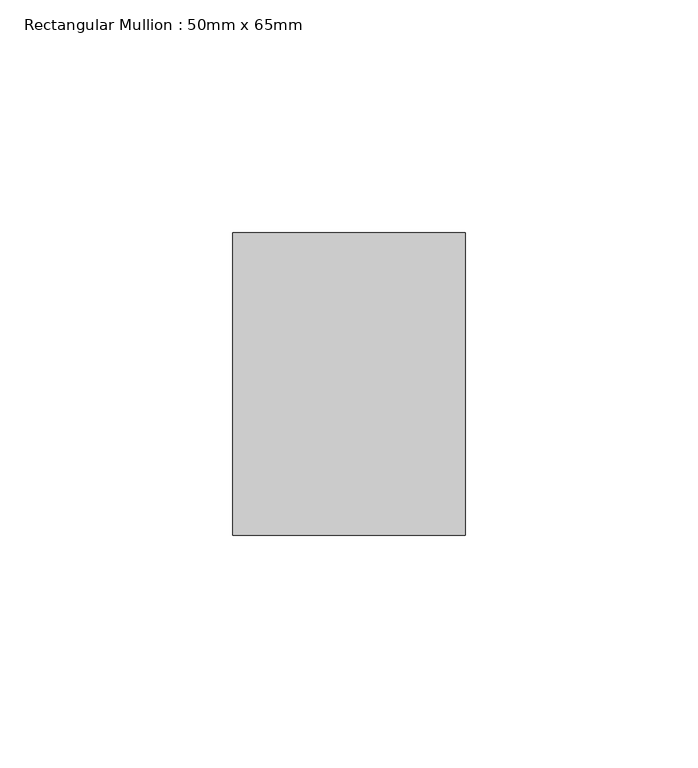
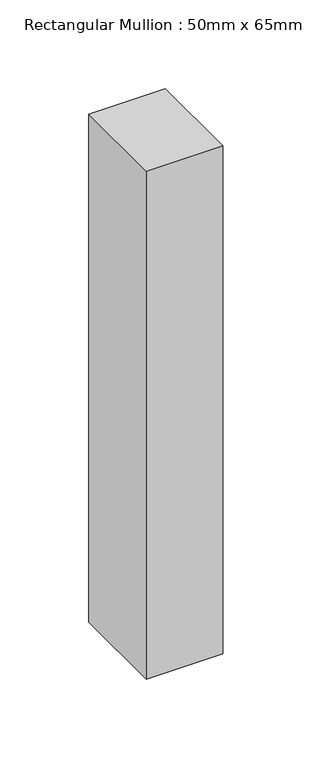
"""IFC4 building model written with IfcOpenShell, lengths in millimetres: member geometry, Rectangular Mullion : 50mm x 65mm."""

from ifc_helpers import new_model, si_unit, frame, origin, place, context, project, spatial, polyline, outline, extrude, source, transform, mapped, element, save


def rectangular_mullion_50mm_x_65mm_badf7e47(model_context):
    return source(origin(), model_context, "Body", "SweptSolid", [
        extrude(outline(polyline([(0.0, 32.5), (0.0, -32.5), (-50.0, -32.5), (-50.0, 32.5), (0.0, 32.5)])), frame((0.0, 0.0, -350.0), z_axis=(0.0, 0.0, 1.0), x_axis=(1.0, 0.0, 0.0)), (0.0, 0.0, 1.0), 350.0),
    ])


if __name__ == "__main__":
    model = new_model("IFC4")
    model_context = context("Model", 3, world=origin())
    ifc_project = project(units=[si_unit("LENGTHUNIT", "METRE", prefix="MILLI")], contexts=[model_context])
    site = spatial("IfcSite", under=ifc_project)
    building = spatial("IfcBuilding", under=site)
    placement = place(None, origin())
    rectangular_mullion_50mm_x_65mm_shape = rectangular_mullion_50mm_x_65mm_badf7e47(model_context)
    element("IfcMember", 1, ObjectType="Rectangular Mullion : 50mm x 65mm", at=placement, inside=building, context=model_context, shape_type="MappedRepresentation", body=[
        mapped(rectangular_mullion_50mm_x_65mm_shape, transform((0.0, 0.0, 0.0), x_axis=(1.0, 0.0, 0.0), y_axis=(0.0, 1.0, 0.0), z_axis=(0.0, 0.0, 1.0))),
    ])
    save(model, "model.ifc")
